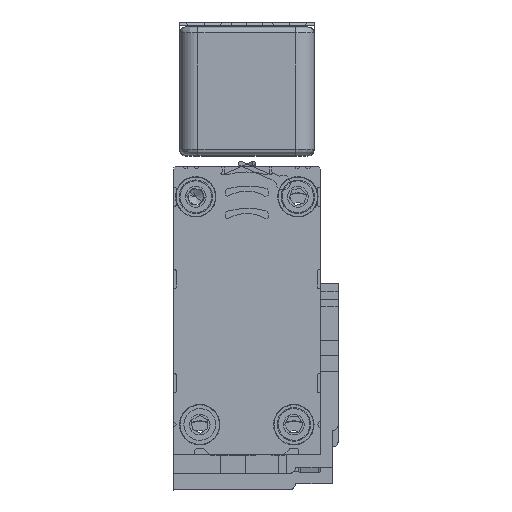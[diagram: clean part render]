
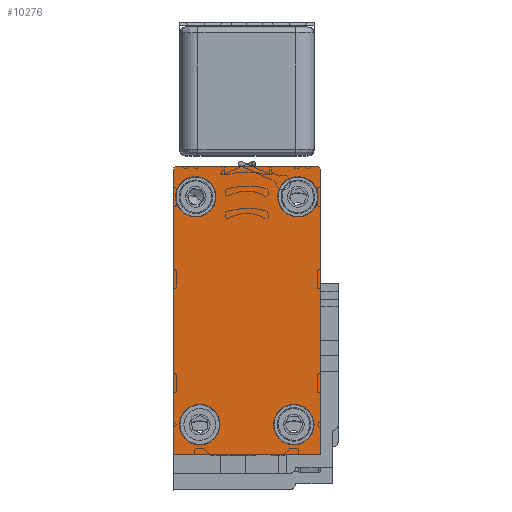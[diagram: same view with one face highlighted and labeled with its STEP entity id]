
A CAD part, top view. The second image highlights one B-rep face of the part: STEP entity #10276.
In plain terms, the highlighted planar face has unit normal (0, 0, 1).
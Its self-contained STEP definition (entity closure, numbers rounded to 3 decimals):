
#21 = VECTOR ( 'NONE', #17947, 1000. ) ;
#419 = VERTEX_POINT ( 'NONE', #7760 ) ;
#533 = EDGE_CURVE ( 'NONE', #6596, #19618, #13337, .T. ) ;
#543 = CARTESIAN_POINT ( 'NONE',  ( 2.335, 21.401, 3185. ) ) ;
#577 = DIRECTION ( 'NONE',  ( 0., 0., 1. ) ) ;
#699 = EDGE_CURVE ( 'NONE', #15986, #20357, #22285, .T. ) ;
#747 = FACE_BOUND ( 'NONE', #22411, .T. ) ;
#958 = VERTEX_POINT ( 'NONE', #23192 ) ;
#966 = DIRECTION ( 'NONE',  ( 0., 1., 0. ) ) ;
#1346 = CIRCLE ( 'NONE', #2469, 3.302 ) ;
#1580 = DIRECTION ( 'NONE',  ( 0., 1., 0. ) ) ;
#1677 = ORIENTED_EDGE ( 'NONE', *, *, #9042, .T. ) ;
#1795 = DIRECTION ( 'NONE',  ( 0., 0., -1. ) ) ;
#1853 = VECTOR ( 'NONE', #1580, 1000. ) ;
#2261 = CARTESIAN_POINT ( 'NONE',  ( 5.984, 25.871, 3185. ) ) ;
#2436 = ORIENTED_EDGE ( 'NONE', *, *, #699, .F. ) ;
#2461 = CARTESIAN_POINT ( 'NONE',  ( -17.667, 21.401, 3185. ) ) ;
#2469 = AXIS2_PLACEMENT_3D ( 'NONE', #18857, #5653, #21111 ) ;
#2527 = EDGE_CURVE ( 'NONE', #25055, #27160, #19016, .T. ) ;
#2774 = DIRECTION ( 'NONE',  ( -1., 0., 0. ) ) ;
#3146 = VERTEX_POINT ( 'NONE', #14891 ) ;
#3398 = LINE ( 'NONE', #14172, #15117 ) ;
#3703 = AXIS2_PLACEMENT_3D ( 'NONE', #15015, #1795, #17224 ) ;
#3803 = VERTEX_POINT ( 'NONE', #12751 ) ;
#4404 = CARTESIAN_POINT ( 'NONE',  ( -0.967, 21.401, 3185. ) ) ;
#4414 = ORIENTED_EDGE ( 'NONE', *, *, #23480, .T. ) ;
#4566 = CARTESIAN_POINT ( 'NONE',  ( -17.514, 25.871, 3185. ) ) ;
#4889 = CARTESIAN_POINT ( 'NONE',  ( 5.485, 25.871, 3185. ) ) ;
#5009 = AXIS2_PLACEMENT_3D ( 'NONE', #7647, #23091, #9860 ) ;
#5010 = VECTOR ( 'NONE', #21973, 1000. ) ;
#5363 = EDGE_CURVE ( 'NONE', #18419, #3803, #14854, .T. ) ;
#5522 = DIRECTION ( 'NONE',  ( 0., 0., -1. ) ) ;
#5653 = DIRECTION ( 'NONE',  ( 0., 0., -1. ) ) ;
#5985 = CIRCLE ( 'NONE', #23123, 3.302 ) ;
#6033 = ORIENTED_EDGE ( 'NONE', *, *, #17795, .T. ) ;
#6291 = CARTESIAN_POINT ( 'NONE',  ( 1.676, -15.887, 3185. ) ) ;
#6560 = CARTESIAN_POINT ( 'NONE',  ( 4.978, -15.887, 3185. ) ) ;
#6596 = VERTEX_POINT ( 'NONE', #8631 ) ;
#6606 = FACE_BOUND ( 'NONE', #17370, .T. ) ;
#6741 = ORIENTED_EDGE ( 'NONE', *, *, #27510, .T. ) ;
#7107 = DIRECTION ( 'NONE',  ( 0., 1., 0. ) ) ;
#7474 = ORIENTED_EDGE ( 'NONE', *, *, #15870, .T. ) ;
#7647 = CARTESIAN_POINT ( 'NONE',  ( 1.676, -15.887, 3185. ) ) ;
#7760 = CARTESIAN_POINT ( 'NONE',  ( -17.017, -15.887, 3185. ) ) ;
#8184 = ORIENTED_EDGE ( 'NONE', *, *, #12778, .T. ) ;
#8481 = DIRECTION ( 'NONE',  ( -1., 0., 0. ) ) ;
#8631 = CARTESIAN_POINT ( 'NONE',  ( -1.626, -15.887, 3185. ) ) ;
#8640 = CARTESIAN_POINT ( 'NONE',  ( -14.365, 21.401, 3185. ) ) ;
#9042 = EDGE_CURVE ( 'NONE', #11341, #23351, #14293, .T. ) ;
#9060 = CARTESIAN_POINT ( 'NONE',  ( -18.014, 25.871, 3185. ) ) ;
#9350 = AXIS2_PLACEMENT_3D ( 'NONE', #6291, #21736, #8481 ) ;
#9495 = DIRECTION ( 'NONE',  ( 0., 1., 0. ) ) ;
#9860 = DIRECTION ( 'NONE',  ( -1., 0., 0. ) ) ;
#10276 = ADVANCED_FACE ( 'NONE', ( #12478, #747, #6606, #23514, #17631 ), #11375, .T. ) ;
#10842 = LINE ( 'NONE', #26413, #5010 ) ;
#10862 = DIRECTION ( 'NONE',  ( -1., 0., 0. ) ) ;
#11163 = ORIENTED_EDGE ( 'NONE', *, *, #13268, .T. ) ;
#11341 = VERTEX_POINT ( 'NONE', #19409 ) ;
#11373 = ORIENTED_EDGE ( 'NONE', *, *, #17341, .T. ) ;
#11375 = PLANE ( 'NONE',  #14348 ) ;
#12478 = FACE_BOUND ( 'NONE', #23801, .T. ) ;
#12542 = DIRECTION ( 'NONE',  ( 0., 0., -1. ) ) ;
#12751 = CARTESIAN_POINT ( 'NONE',  ( 5.637, 21.401, 3185. ) ) ;
#12778 = EDGE_CURVE ( 'NONE', #15986, #3146, #17632, .T. ) ;
#13268 = EDGE_CURVE ( 'NONE', #3803, #18419, #18360, .T. ) ;
#13337 = CIRCLE ( 'NONE', #9350, 3.302 ) ;
#13496 = ORIENTED_EDGE ( 'NONE', *, *, #27879, .T. ) ;
#13804 = CARTESIAN_POINT ( 'NONE',  ( -18.014, -20.888, 3185. ) ) ;
#13995 = EDGE_CURVE ( 'NONE', #27160, #20357, #22775, .T. ) ;
#14172 = CARTESIAN_POINT ( 'NONE',  ( 5.984, 7.11, 3185. ) ) ;
#14293 = LINE ( 'NONE', #25778, #1853 ) ;
#14348 = AXIS2_PLACEMENT_3D ( 'NONE', #13804, #577, #16026 ) ;
#14693 = CARTESIAN_POINT ( 'NONE',  ( 5.485, 26.371, 3185. ) ) ;
#14854 = CIRCLE ( 'NONE', #18535, 3.302 ) ;
#14856 = CARTESIAN_POINT ( 'NONE',  ( 5.984, 7.11, 3185. ) ) ;
#14891 = CARTESIAN_POINT ( 'NONE',  ( -18.014, -20.888, 3185. ) ) ;
#15015 = CARTESIAN_POINT ( 'NONE',  ( 2.335, 21.401, 3185. ) ) ;
#15117 = VECTOR ( 'NONE', #966, 1000. ) ;
#15325 = ORIENTED_EDGE ( 'NONE', *, *, #2527, .T. ) ;
#15749 = AXIS2_PLACEMENT_3D ( 'NONE', #18721, #5522, #20968 ) ;
#15870 = EDGE_CURVE ( 'NONE', #958, #16805, #1346, .T. ) ;
#15986 = VERTEX_POINT ( 'NONE', #23576 ) ;
#16004 = DIRECTION ( 'NONE',  ( 0., 0., -1. ) ) ;
#16026 = DIRECTION ( 'NONE',  ( -1., 0., 0. ) ) ;
#16666 = EDGE_LOOP ( 'NONE', ( #11373, #13496 ) ) ;
#16805 = VERTEX_POINT ( 'NONE', #2461 ) ;
#16851 = CARTESIAN_POINT ( 'NONE',  ( 5.485, 26.371, 3185. ) ) ;
#16894 = DIRECTION ( 'NONE',  ( -1., 0., 0. ) ) ;
#17224 = DIRECTION ( 'NONE',  ( -1., 0., 0. ) ) ;
#17341 = EDGE_CURVE ( 'NONE', #419, #26707, #21404, .T. ) ;
#17370 = EDGE_LOOP ( 'NONE', ( #17900, #6741 ) ) ;
#17631 = FACE_OUTER_BOUND ( 'NONE', #24609, .T. ) ;
#17632 = LINE ( 'NONE', #9060, #21 ) ;
#17795 = EDGE_CURVE ( 'NONE', #23351, #25055, #3398, .T. ) ;
#17900 = ORIENTED_EDGE ( 'NONE', *, *, #533, .T. ) ;
#17938 = ORIENTED_EDGE ( 'NONE', *, *, #5363, .T. ) ;
#17947 = DIRECTION ( 'NONE',  ( 0., -1., 0. ) ) ;
#18184 = CIRCLE ( 'NONE', #15749, 3.302 ) ;
#18360 = CIRCLE ( 'NONE', #3703, 3.302 ) ;
#18419 = VERTEX_POINT ( 'NONE', #4404 ) ;
#18535 = AXIS2_PLACEMENT_3D ( 'NONE', #543, #16004, #2774 ) ;
#18721 = CARTESIAN_POINT ( 'NONE',  ( -13.714, -15.887, 3185. ) ) ;
#18857 = CARTESIAN_POINT ( 'NONE',  ( -14.365, 21.401, 3185. ) ) ;
#19016 = CIRCLE ( 'NONE', #27144, 0.5 ) ;
#19409 = CARTESIAN_POINT ( 'NONE',  ( 5.984, -20.888, 3185. ) ) ;
#19618 = VERTEX_POINT ( 'NONE', #6560 ) ;
#19879 = AXIS2_PLACEMENT_3D ( 'NONE', #25735, #12542, #27955 ) ;
#20320 = DIRECTION ( 'NONE',  ( 0., 0., 1. ) ) ;
#20357 = VERTEX_POINT ( 'NONE', #23792 ) ;
#20937 = EDGE_CURVE ( 'NONE', #3146, #11341, #10842, .T. ) ;
#20968 = DIRECTION ( 'NONE',  ( -1., 0., 0. ) ) ;
#21111 = DIRECTION ( 'NONE',  ( -1., 0., 0. ) ) ;
#21280 = ORIENTED_EDGE ( 'NONE', *, *, #13995, .T. ) ;
#21356 = CIRCLE ( 'NONE', #5009, 3.302 ) ;
#21404 = CIRCLE ( 'NONE', #19879, 3.302 ) ;
#21736 = DIRECTION ( 'NONE',  ( 0., 0., -1. ) ) ;
#21973 = DIRECTION ( 'NONE',  ( 1., 0., 0. ) ) ;
#22285 = CIRCLE ( 'NONE', #22654, 0.5 ) ;
#22411 = EDGE_LOOP ( 'NONE', ( #17938, #11163 ) ) ;
#22425 = ORIENTED_EDGE ( 'NONE', *, *, #20937, .T. ) ;
#22654 = AXIS2_PLACEMENT_3D ( 'NONE', #4566, #22717, #9495 ) ;
#22717 = DIRECTION ( 'NONE',  ( 0., 0., -1. ) ) ;
#22775 = LINE ( 'NONE', #14693, #27934 ) ;
#23091 = DIRECTION ( 'NONE',  ( 0., 0., -1. ) ) ;
#23123 = AXIS2_PLACEMENT_3D ( 'NONE', #8640, #24099, #10862 ) ;
#23192 = CARTESIAN_POINT ( 'NONE',  ( -11.063, 21.401, 3185. ) ) ;
#23351 = VERTEX_POINT ( 'NONE', #14856 ) ;
#23480 = EDGE_CURVE ( 'NONE', #16805, #958, #5985, .T. ) ;
#23514 = FACE_BOUND ( 'NONE', #16666, .T. ) ;
#23576 = CARTESIAN_POINT ( 'NONE',  ( -18.014, 25.871, 3185. ) ) ;
#23792 = CARTESIAN_POINT ( 'NONE',  ( -17.514, 26.371, 3185. ) ) ;
#23801 = EDGE_LOOP ( 'NONE', ( #4414, #7474 ) ) ;
#24099 = DIRECTION ( 'NONE',  ( 0., 0., -1. ) ) ;
#24587 = CARTESIAN_POINT ( 'NONE',  ( -10.412, -15.887, 3185. ) ) ;
#24609 = EDGE_LOOP ( 'NONE', ( #1677, #6033, #15325, #21280, #2436, #8184, #22425 ) ) ;
#25055 = VERTEX_POINT ( 'NONE', #2261 ) ;
#25735 = CARTESIAN_POINT ( 'NONE',  ( -13.714, -15.887, 3185. ) ) ;
#25778 = CARTESIAN_POINT ( 'NONE',  ( 5.984, -20.888, 3185. ) ) ;
#26413 = CARTESIAN_POINT ( 'NONE',  ( -18.014, -20.888, 3185. ) ) ;
#26707 = VERTEX_POINT ( 'NONE', #24587 ) ;
#27144 = AXIS2_PLACEMENT_3D ( 'NONE', #4889, #20320, #7107 ) ;
#27160 = VERTEX_POINT ( 'NONE', #16851 ) ;
#27510 = EDGE_CURVE ( 'NONE', #19618, #6596, #21356, .T. ) ;
#27879 = EDGE_CURVE ( 'NONE', #26707, #419, #18184, .T. ) ;
#27934 = VECTOR ( 'NONE', #16894, 1000. ) ;
#27955 = DIRECTION ( 'NONE',  ( -1., 0., 0. ) ) ;
